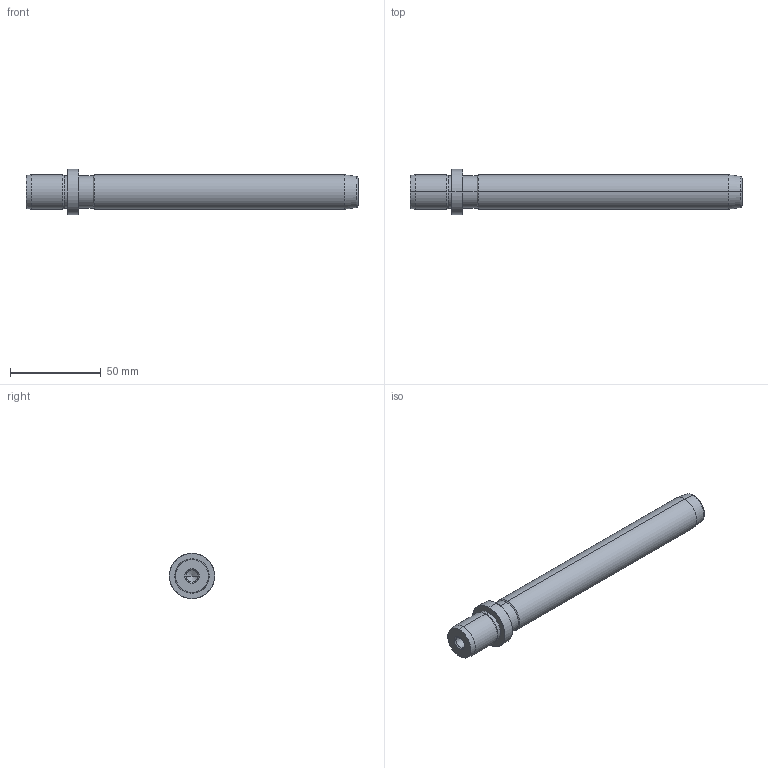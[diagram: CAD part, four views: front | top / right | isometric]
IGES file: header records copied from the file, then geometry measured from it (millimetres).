
Start section: START RECORD GO HERE.
Global section: file name: 719-19x160.igs; native system: DASSAULT SYSTEMES CATIA V5 R20 - www.3ds.com; preprocessor: CATIA Version 5 Release 20 ; author: Utente; organization: NB04-ASUS; date: 20210103.190331; units: millimetre
Bounding box: 183 x 25 x 25 mm (x, y, z)
Surface area: 12936.6 mm2 (no closed solid volume)
Topology: 0 solids, 0 shells, 36 faces, 196 edges, 192 vertices
Faces by surface type: revolution 32, plane 4
